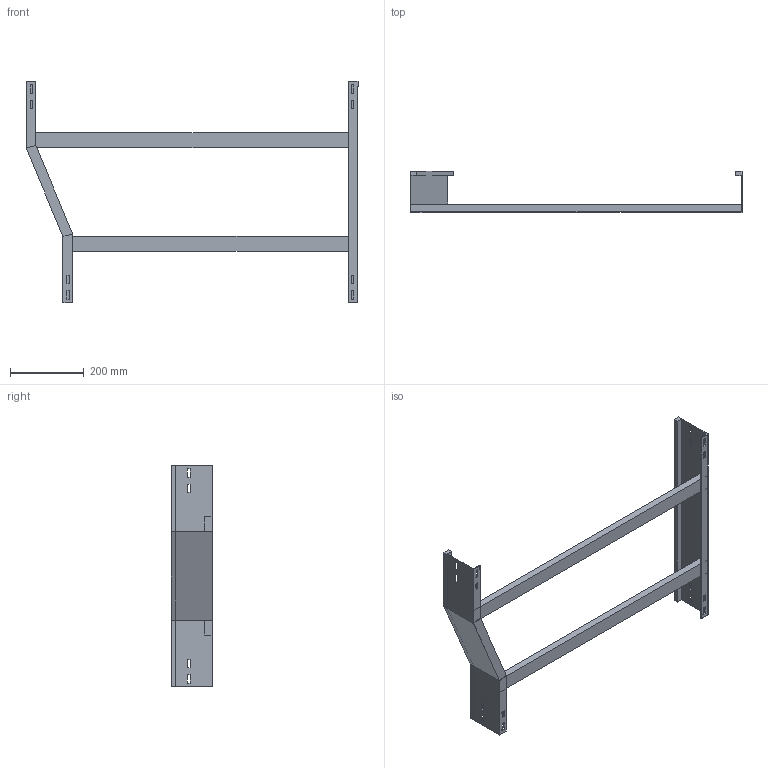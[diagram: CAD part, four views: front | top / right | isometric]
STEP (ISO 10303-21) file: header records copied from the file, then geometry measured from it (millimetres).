
FILE_DESCRIPTION (( 'STEP AP214' ), '1' );
FILE_NAME ('B2X21B8J900XX.step', '2025-09-02T17:18:14', ( '' ), ( '' ), 'SwSTEP 2.0', 'SolidWorks 2023', '' );
FILE_SCHEMA (( 'AUTOMOTIVE_DESIGN' ));
Length unit declared in the file: millimetre
Products named in the file (5): TRAVERSINO_800; TRAVERSINO_900; B2X21B8J900XX; SPONDA DRITTA_H112.5; SPONDA RID. DX 900-800_H112.5
Assembly tree (4 placements, depth 2):
  B2X21B8J900XX
    SPONDA RID. DX 900-800_H112.5
    TRAVERSINO_800
    TRAVERSINO_900
    SPONDA DRITTA_H112.5
Bounding box: 900 x 112.5 x 600 mm (x, y, z)
Volume: 1935332 mm3; surface area: 586188 mm2
Topology: 4 solids, 4 shells, 112 faces, 296 edges, 192 vertices
Faces by surface type: plane 112
Entity records: 3590 total; most frequent: CARTESIAN_POINT 607, ORIENTED_EDGE 592, DIRECTION 534, LINE 296, VECTOR 296, EDGE_CURVE 296, VERTEX_POINT 192, EDGE_LOOP 144
